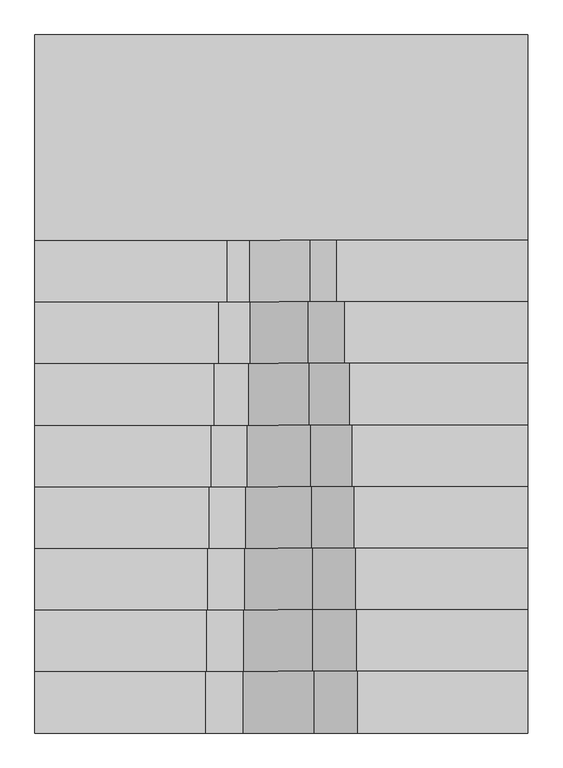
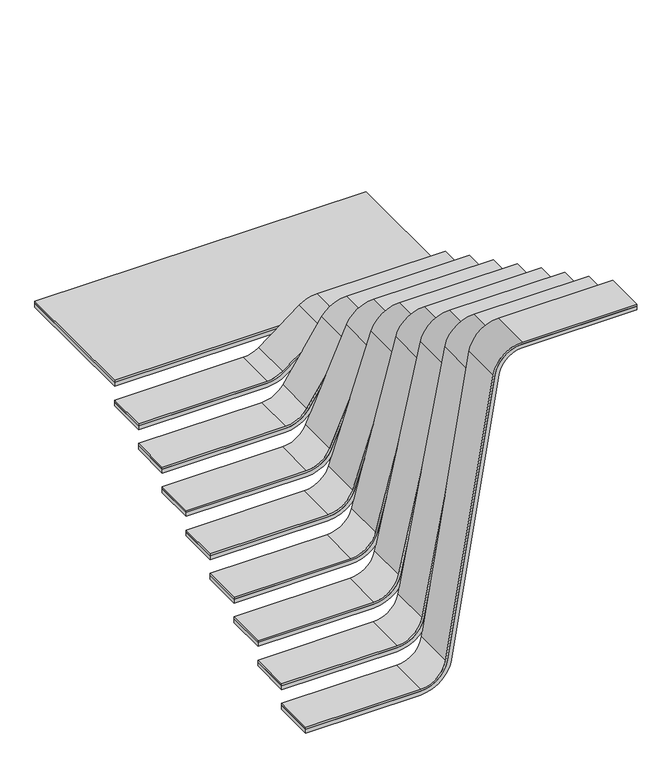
"""IFC4 building model written with IfcOpenShell, lengths in millimetres: proxy geometry, 楼梯 安荣伟 : 楼梯 安荣伟."""

from ifc_helpers import new_model, si_unit, point, frame, frame_2d, origin, place, context, project, spatial, polyline, circle_curve, trimmed, segment, composite_curve, outline, extrude, source, transform, mapped, element, save


def generic_models_38c315a2(model_context):
    return source(origin(), model_context, "Body", "SweptSolid", [
        extrude(outline(composite_curve([segment(polyline([(165.0, -1200.0), (150.0, -1200.0), (150.0, -369.4254177)]), True, "CONTINUOUS"), segment(trimmed(circle_curve(frame_2d((350.0, -369.4254177)), 200.0), [point((150.0, -369.4254177))], [point((317.1202025, -172.1466329))], False, "CARTESIAN"), True, "CONTINUOUS"), segment(polyline([(317.1202025, -172.1466329), (2382.8797975, 172.1466329)]), True, "CONTINUOUS"), segment(trimmed(circle_curve(frame_2d((2350.0, 369.4254177)), 200.0), [point((2382.8797975, 172.1466329))], [point((2550.0, 369.4254177))], True, "CARTESIAN"), True, "CONTINUOUS"), segment(polyline([(2550.0, 369.4254177), (2550.0, 1200.0), (2565.0, 1200.0), (2565.0, 369.4254177)]), True, "CONTINUOUS"), segment(trimmed(circle_curve(frame_2d((2350.0, 369.4254177)), 215.0), [point((2565.0, 369.4254177))], [point((2385.3457823, 157.3507241))], False, "CARTESIAN"), True, "CONTINUOUS"), segment(polyline([(2385.3457823, 157.3507241), (319.5861873, -186.9425418)]), True, "CONTINUOUS"), segment(trimmed(circle_curve(frame_2d((350.0, -369.4254177)), 185.0), [point((319.5861873, -186.9425418))], [point((165.0, -369.4254177))], True, "CARTESIAN"), True, "CONTINUOUS"), segment(polyline([(165.0, -369.4254177), (165.0, -1200.0)]), True, "CONTINUOUS")], self_intersect=False)), frame((0.0, -2400.0, 0.0), z_axis=(0.0, 1.0, 0.0), x_axis=(0.0, 0.0, 1.0)), (0.0, 0.0, 1.0), 300.0),
        extrude(outline(composite_curve([segment(polyline([(150.0, -1200.0), (120.0, -1200.0), (120.0, -369.4254177)]), True, "CONTINUOUS"), segment(trimmed(circle_curve(frame_2d((350.0, -369.4254177)), 230.0), [point((120.0, -369.4254177))], [point((312.1882329, -142.5548152))], False, "CARTESIAN"), True, "CONTINUOUS"), segment(polyline([(312.1882329, -142.5548152), (2377.9478278, 201.7384506)]), True, "CONTINUOUS"), segment(trimmed(circle_curve(frame_2d((2350.0, 369.4254177)), 170.0), [point((2377.9478278, 201.7384506))], [point((2520.0, 369.4254177))], True, "CARTESIAN"), True, "CONTINUOUS"), segment(polyline([(2520.0, 369.4254177), (2520.0, 1200.0), (2550.0, 1200.0), (2550.0, 369.4254177)]), True, "CONTINUOUS"), segment(trimmed(circle_curve(frame_2d((2350.0, 369.4254177)), 200.0), [point((2550.0, 369.4254177))], [point((2382.8797975, 172.1466329))], False, "CARTESIAN"), True, "CONTINUOUS"), segment(polyline([(2382.8797975, 172.1466329), (317.1202025, -172.1466329)]), True, "CONTINUOUS"), segment(trimmed(circle_curve(frame_2d((350.0, -369.4254177)), 200.0), [point((317.1202025, -172.1466329))], [point((150.0, -369.4254177))], True, "CARTESIAN"), True, "CONTINUOUS"), segment(polyline([(150.0, -369.4254177), (150.0, -1200.0)]), True, "CONTINUOUS")], self_intersect=False)), frame((0.0, -2400.0, 0.0), z_axis=(0.0, 1.0, 0.0), x_axis=(0.0, 0.0, 1.0)), (0.0, 0.0, 1.0), 300.0),
        extrude(outline(composite_curve([segment(polyline([(315.0, -1200.0), (300.0, -1200.0), (300.0, -365.5005555)]), True, "CONTINUOUS"), segment(trimmed(circle_curve(frame_2d((500.0, -365.5005555)), 200.0), [point((300.0, -365.5005555))], [point((462.5775784, -169.0328422))], False, "CARTESIAN"), True, "CONTINUOUS"), segment(polyline([(462.5775784, -169.0328422), (2237.4224216, 169.0328422)]), True, "CONTINUOUS"), segment(trimmed(circle_curve(frame_2d((2200.0, 365.5005555)), 200.0), [point((2237.4224216, 169.0328422))], [point((2400.0, 365.5005555))], True, "CARTESIAN"), True, "CONTINUOUS"), segment(polyline([(2400.0, 365.5005555), (2400.0, 1200.0), (2415.0, 1200.0), (2415.0, 365.5005555)]), True, "CONTINUOUS"), segment(trimmed(circle_curve(frame_2d((2200.0, 365.5005555)), 215.0), [point((2415.0, 365.5005555))], [point((2240.2291032, 154.2977637))], False, "CARTESIAN"), True, "CONTINUOUS"), segment(polyline([(2240.2291032, 154.2977637), (465.38426, -183.7679207)]), True, "CONTINUOUS"), segment(trimmed(circle_curve(frame_2d((500.0, -365.5005555)), 185.0), [point((465.38426, -183.7679207))], [point((315.0, -365.5005555))], True, "CARTESIAN"), True, "CONTINUOUS"), segment(polyline([(315.0, -365.5005555), (315.0, -1200.0)]), True, "CONTINUOUS")], self_intersect=False)), frame((0.0, -2100.0, 0.0), z_axis=(0.0, 1.0, 0.0), x_axis=(0.0, 0.0, 1.0)), (0.0, 0.0, 1.0), 300.0),
        extrude(outline(composite_curve([segment(polyline([(300.0, -1200.0), (270.0, -1200.0), (270.0, -365.5005555)]), True, "CONTINUOUS"), segment(trimmed(circle_curve(frame_2d((500.0, -365.5005555)), 230.0), [point((270.0, -365.5005555))], [point((456.9642152, -139.5626852))], False, "CARTESIAN"), True, "CONTINUOUS"), segment(polyline([(456.9642152, -139.5626852), (2231.8090583, 198.5029992)]), True, "CONTINUOUS"), segment(trimmed(circle_curve(frame_2d((2200.0, 365.5005555)), 170.0), [point((2231.8090583, 198.5029992))], [point((2370.0, 365.5005555))], True, "CARTESIAN"), True, "CONTINUOUS"), segment(polyline([(2370.0, 365.5005555), (2370.0, 1200.0), (2400.0, 1200.0), (2400.0, 365.5005555)]), True, "CONTINUOUS"), segment(trimmed(circle_curve(frame_2d((2200.0, 365.5005555)), 200.0), [point((2400.0, 365.5005555))], [point((2237.4224216, 169.0328422))], False, "CARTESIAN"), True, "CONTINUOUS"), segment(polyline([(2237.4224216, 169.0328422), (462.5775784, -169.0328422)]), True, "CONTINUOUS"), segment(trimmed(circle_curve(frame_2d((500.0, -365.5005555)), 200.0), [point((462.5775784, -169.0328422))], [point((300.0, -365.5005555))], True, "CARTESIAN"), True, "CONTINUOUS"), segment(polyline([(300.0, -365.5005555), (300.0, -1200.0)]), True, "CONTINUOUS")], self_intersect=False)), frame((0.0, -2100.0, 0.0), z_axis=(0.0, 1.0, 0.0), x_axis=(0.0, 0.0, 1.0)), (0.0, 0.0, 1.0), 300.0),
        extrude(outline(composite_curve([segment(polyline([(465.0, -1200.0), (450.0, -1200.0), (450.0, -360.4343213)]), True, "CONTINUOUS"), segment(trimmed(circle_curve(frame_2d((650.0, -360.4343213)), 200.0), [point((450.0, -360.4343213))], [point((606.6139084, -165.1969092))], False, "CARTESIAN"), True, "CONTINUOUS"), segment(polyline([(606.6139084, -165.1969092), (2093.3860916, 165.1969092)]), True, "CONTINUOUS"), segment(trimmed(circle_curve(frame_2d((2050.0, 360.4343213)), 200.0), [point((2093.3860916, 165.1969092))], [point((2250.0, 360.4343213))], True, "CARTESIAN"), True, "CONTINUOUS"), segment(polyline([(2250.0, 360.4343213), (2250.0, 1200.0), (2265.0, 1200.0), (2265.0, 360.4343213)]), True, "CONTINUOUS"), segment(trimmed(circle_curve(frame_2d((2050.0, 360.4343213)), 215.0), [point((2265.0, 360.4343213))], [point((2096.6400484, 150.5541033))], False, "CARTESIAN"), True, "CONTINUOUS"), segment(polyline([(2096.6400484, 150.5541033), (609.8678653, -179.8397151)]), True, "CONTINUOUS"), segment(trimmed(circle_curve(frame_2d((650.0, -360.4343213)), 185.0), [point((609.8678653, -179.8397151))], [point((465.0, -360.4343213))], True, "CARTESIAN"), True, "CONTINUOUS"), segment(polyline([(465.0, -360.4343213), (465.0, -1200.0)]), True, "CONTINUOUS")], self_intersect=False)), frame((0.0, -1800.0, 0.0), z_axis=(0.0, 1.0, 0.0), x_axis=(0.0, 0.0, 1.0)), (0.0, 0.0, 1.0), 300.0),
        extrude(outline(composite_curve([segment(polyline([(450.0, -1200.0), (420.0, -1200.0), (420.0, -360.4343213)]), True, "CONTINUOUS"), segment(trimmed(circle_curve(frame_2d((650.0, -360.4343213)), 230.0), [point((420.0, -360.4343213))], [point((600.1059947, -135.9112974))], False, "CARTESIAN"), True, "CONTINUOUS"), segment(polyline([(600.1059947, -135.9112974), (2086.8781778, 194.482521)]), True, "CONTINUOUS"), segment(trimmed(circle_curve(frame_2d((2050.0, 360.4343213)), 170.0), [point((2086.8781778, 194.482521))], [point((2220.0, 360.4343213))], True, "CARTESIAN"), True, "CONTINUOUS"), segment(polyline([(2220.0, 360.4343213), (2220.0, 1200.0), (2250.0, 1200.0), (2250.0, 360.4343213)]), True, "CONTINUOUS"), segment(trimmed(circle_curve(frame_2d((2050.0, 360.4343213)), 200.0), [point((2250.0, 360.4343213))], [point((2093.3860916, 165.1969092))], False, "CARTESIAN"), True, "CONTINUOUS"), segment(polyline([(2093.3860916, 165.1969092), (606.6139084, -165.1969092)]), True, "CONTINUOUS"), segment(trimmed(circle_curve(frame_2d((650.0, -360.4343213)), 200.0), [point((606.6139084, -165.1969092))], [point((450.0, -360.4343213))], True, "CARTESIAN"), True, "CONTINUOUS"), segment(polyline([(450.0, -360.4343213), (450.0, -1200.0)]), True, "CONTINUOUS")], self_intersect=False)), frame((0.0, -1800.0, 0.0), z_axis=(0.0, 1.0, 0.0), x_axis=(0.0, 0.0, 1.0)), (0.0, 0.0, 1.0), 300.0),
        extrude(outline(composite_curve([segment(polyline([(615.0, -1200.0), (600.0, -1200.0), (600.0, -353.6556626)]), True, "CONTINUOUS"), segment(trimmed(circle_curve(frame_2d((800.0, -353.6556626)), 200.0), [point((600.0, -353.6556626))], [point((748.4674699, -160.4086747))], False, "CARTESIAN"), True, "CONTINUOUS"), segment(polyline([(748.4674699, -160.4086747), (1951.5325301, 160.4086747)]), True, "CONTINUOUS"), segment(trimmed(circle_curve(frame_2d((1900.0, 353.6556626)), 200.0), [point((1951.5325301, 160.4086747))], [point((2100.0, 353.6556626))], True, "CARTESIAN"), True, "CONTINUOUS"), segment(polyline([(2100.0, 353.6556626), (2100.0, 1200.0), (2115.0, 1200.0), (2115.0, 353.6556626)]), True, "CONTINUOUS"), segment(trimmed(circle_curve(frame_2d((1900.0, 353.6556626)), 215.0), [point((2115.0, 353.6556626))], [point((1955.3974699, 145.9151506))], False, "CARTESIAN"), True, "CONTINUOUS"), segment(polyline([(1955.3974699, 145.9151506), (752.3324096, -174.9021988)]), True, "CONTINUOUS"), segment(trimmed(circle_curve(frame_2d((800.0, -353.6556626)), 185.0), [point((752.3324096, -174.9021988))], [point((615.0, -353.6556626))], True, "CARTESIAN"), True, "CONTINUOUS"), segment(polyline([(615.0, -353.6556626), (615.0, -1200.0)]), True, "CONTINUOUS")], self_intersect=False)), frame((0.0, -1500.0, 0.0), z_axis=(0.0, 1.0, 0.0), x_axis=(0.0, 0.0, 1.0)), (0.0, 0.0, 1.0), 300.0),
        extrude(outline(composite_curve([segment(polyline([(600.0, -1200.0), (570.0, -1200.0), (570.0, -353.6556626)]), True, "CONTINUOUS"), segment(trimmed(circle_curve(frame_2d((800.0, -353.6556626)), 230.0), [point((570.0, -353.6556626))], [point((740.7375904, -131.4216265))], False, "CARTESIAN"), True, "CONTINUOUS"), segment(polyline([(740.7375904, -131.4216265), (1943.8026506, 189.3957229)]), True, "CONTINUOUS"), segment(trimmed(circle_curve(frame_2d((1900.0, 353.6556626)), 170.0), [point((1943.8026506, 189.3957229))], [point((2070.0, 353.6556626))], True, "CARTESIAN"), True, "CONTINUOUS"), segment(polyline([(2070.0, 353.6556626), (2070.0, 1200.0), (2100.0, 1200.0), (2100.0, 353.6556626)]), True, "CONTINUOUS"), segment(trimmed(circle_curve(frame_2d((1900.0, 353.6556626)), 200.0), [point((2100.0, 353.6556626))], [point((1951.5325301, 160.4086747))], False, "CARTESIAN"), True, "CONTINUOUS"), segment(polyline([(1951.5325301, 160.4086747), (748.4674699, -160.4086747)]), True, "CONTINUOUS"), segment(trimmed(circle_curve(frame_2d((800.0, -353.6556626)), 200.0), [point((748.4674699, -160.4086747))], [point((600.0, -353.6556626))], True, "CARTESIAN"), True, "CONTINUOUS"), segment(polyline([(600.0, -353.6556626), (600.0, -1200.0)]), True, "CONTINUOUS")], self_intersect=False)), frame((0.0, -1500.0, 0.0), z_axis=(0.0, 1.0, 0.0), x_axis=(0.0, 0.0, 1.0)), (0.0, 0.0, 1.0), 300.0),
        extrude(outline(composite_curve([segment(polyline([(765.0, -1200.0), (750.0, -1200.0), (750.0, -344.151844)]), True, "CONTINUOUS"), segment(trimmed(circle_curve(frame_2d((950.0, -344.151844)), 200.0), [point((750.0, -344.151844))], [point((886.7544468, -154.4151844))], False, "CARTESIAN"), True, "CONTINUOUS"), segment(polyline([(886.7544468, -154.4151844), (1813.2455532, 154.4151844)]), True, "CONTINUOUS"), segment(trimmed(circle_curve(frame_2d((1750.0, 344.151844)), 200.0), [point((1813.2455532, 154.4151844))], [point((1950.0, 344.151844))], True, "CARTESIAN"), True, "CONTINUOUS"), segment(polyline([(1950.0, 344.151844), (1950.0, 1200.0), (1965.0, 1200.0), (1965.0, 344.151844)]), True, "CONTINUOUS"), segment(trimmed(circle_curve(frame_2d((1750.0, 344.151844)), 215.0), [point((1965.0, 344.151844))], [point((1817.9889697, 140.1849349))], False, "CARTESIAN"), True, "CONTINUOUS"), segment(polyline([(1817.9889697, 140.1849349), (891.4978633, -168.6454339)]), True, "CONTINUOUS"), segment(trimmed(circle_curve(frame_2d((950.0, -344.151844)), 185.0), [point((891.4978633, -168.6454339))], [point((765.0, -344.151844))], True, "CARTESIAN"), True, "CONTINUOUS"), segment(polyline([(765.0, -344.151844), (765.0, -1200.0)]), True, "CONTINUOUS")], self_intersect=False)), frame((0.0, -1200.0, 0.0), z_axis=(0.0, 1.0, 0.0), x_axis=(0.0, 0.0, 1.0)), (0.0, 0.0, 1.0), 300.0),
        extrude(outline(composite_curve([segment(polyline([(750.0, -1200.0), (720.0, -1200.0), (720.0, -344.151844)]), True, "CONTINUOUS"), segment(trimmed(circle_curve(frame_2d((950.0, -344.151844)), 230.0), [point((720.0, -344.151844))], [point((877.2676138, -125.9546855))], False, "CARTESIAN"), True, "CONTINUOUS"), segment(polyline([(877.2676138, -125.9546855), (1803.7587202, 182.8756833)]), True, "CONTINUOUS"), segment(trimmed(circle_curve(frame_2d((1750.0, 344.151844)), 170.0), [point((1803.7587202, 182.8756833))], [point((1920.0, 344.151844))], True, "CARTESIAN"), True, "CONTINUOUS"), segment(polyline([(1920.0, 344.151844), (1920.0, 1200.0), (1950.0, 1200.0), (1950.0, 344.151844)]), True, "CONTINUOUS"), segment(trimmed(circle_curve(frame_2d((1750.0, 344.151844)), 200.0), [point((1950.0, 344.151844))], [point((1813.2455532, 154.4151844))], False, "CARTESIAN"), True, "CONTINUOUS"), segment(polyline([(1813.2455532, 154.4151844), (886.7544468, -154.4151844)]), True, "CONTINUOUS"), segment(trimmed(circle_curve(frame_2d((950.0, -344.151844)), 200.0), [point((886.7544468, -154.4151844))], [point((750.0, -344.151844))], True, "CARTESIAN"), True, "CONTINUOUS"), segment(polyline([(750.0, -344.151844), (750.0, -1200.0)]), True, "CONTINUOUS")], self_intersect=False)), frame((0.0, -1200.0, 0.0), z_axis=(0.0, 1.0, 0.0), x_axis=(0.0, 0.0, 1.0)), (0.0, 0.0, 1.0), 300.0),
        extrude(outline(composite_curve([segment(polyline([(915.0, -1200.0), (900.0, -1200.0), (900.0, -329.9746178)]), True, "CONTINUOUS"), segment(trimmed(circle_curve(frame_2d((1100.0, -329.9746178)), 200.0), [point((900.0, -329.9746178))], [point((1018.7723068, -147.2123081))], False, "CARTESIAN"), True, "CONTINUOUS"), segment(polyline([(1018.7723068, -147.2123081), (1681.2276932, 147.2123081)]), True, "CONTINUOUS"), segment(trimmed(circle_curve(frame_2d((1600.0, 329.9746178)), 200.0), [point((1681.2276932, 147.2123081))], [point((1800.0, 329.9746178))], True, "CARTESIAN"), True, "CONTINUOUS"), segment(polyline([(1800.0, 329.9746178), (1800.0, 1200.0), (1815.0, 1200.0), (1815.0, 329.9746178)]), True, "CONTINUOUS"), segment(trimmed(circle_curve(frame_2d((1600.0, 329.9746178)), 215.0), [point((1815.0, 329.9746178))], [point((1687.3197702, 133.5051349))], False, "CARTESIAN"), True, "CONTINUOUS"), segment(polyline([(1687.3197702, 133.5051349), (1024.8643838, -160.9194813)]), True, "CONTINUOUS"), segment(trimmed(circle_curve(frame_2d((1100.0, -329.9746178)), 185.0), [point((1024.8643838, -160.9194813))], [point((915.0, -329.9746178))], True, "CARTESIAN"), True, "CONTINUOUS"), segment(polyline([(915.0, -329.9746178), (915.0, -1200.0)]), True, "CONTINUOUS")], self_intersect=False)), frame((0.0, -900.0, 0.0), z_axis=(0.0, 1.0, 0.0), x_axis=(0.0, 0.0, 1.0)), (0.0, 0.0, 1.0), 300.0),
        extrude(outline(composite_curve([segment(polyline([(900.0, -1200.0), (870.0, -1200.0), (870.0, -329.9746178)]), True, "CONTINUOUS"), segment(trimmed(circle_curve(frame_2d((1100.0, -329.9746178)), 230.0), [point((870.0, -329.9746178))], [point((1006.5881528, -119.7979616))], False, "CARTESIAN"), True, "CONTINUOUS"), segment(polyline([(1006.5881528, -119.7979616), (1669.0435392, 174.6266546)]), True, "CONTINUOUS"), segment(trimmed(circle_curve(frame_2d((1600.0, 329.9746178)), 170.0), [point((1669.0435392, 174.6266546))], [point((1770.0, 329.9746178))], True, "CARTESIAN"), True, "CONTINUOUS"), segment(polyline([(1770.0, 329.9746178), (1770.0, 1200.0), (1800.0, 1200.0), (1800.0, 329.9746178)]), True, "CONTINUOUS"), segment(trimmed(circle_curve(frame_2d((1600.0, 329.9746178)), 200.0), [point((1800.0, 329.9746178))], [point((1681.2276932, 147.2123081))], False, "CARTESIAN"), True, "CONTINUOUS"), segment(polyline([(1681.2276932, 147.2123081), (1018.7723068, -147.2123081)]), True, "CONTINUOUS"), segment(trimmed(circle_curve(frame_2d((1100.0, -329.9746178)), 200.0), [point((1018.7723068, -147.2123081))], [point((900.0, -329.9746178))], True, "CARTESIAN"), True, "CONTINUOUS"), segment(polyline([(900.0, -329.9746178), (900.0, -1200.0)]), True, "CONTINUOUS")], self_intersect=False)), frame((0.0, -900.0, 0.0), z_axis=(0.0, 1.0, 0.0), x_axis=(0.0, 0.0, 1.0)), (0.0, 0.0, 1.0), 300.0),
        extrude(outline(composite_curve([segment(polyline([(1065.0, -1200.0), (1050.0, -1200.0), (1050.0, -307.0367517)]), True, "CONTINUOUS"), segment(trimmed(circle_curve(frame_2d((1250.0, -307.0367517)), 200.0), [point((1050.0, -307.0367517))], [point((1139.0599608, -140.6266928))], False, "CARTESIAN"), True, "CONTINUOUS"), segment(polyline([(1139.0599608, -140.6266928), (1560.9400392, 140.6266928)]), True, "CONTINUOUS"), segment(trimmed(circle_curve(frame_2d((1450.0, 307.0367517)), 200.0), [point((1560.9400392, 140.6266928))], [point((1650.0, 307.0367517))], True, "CARTESIAN"), True, "CONTINUOUS"), segment(polyline([(1650.0, 307.0367517), (1650.0, 1200.0), (1665.0, 1200.0), (1665.0, 307.0367517)]), True, "CONTINUOUS"), segment(trimmed(circle_curve(frame_2d((1450.0, 307.0367517)), 215.0), [point((1665.0, 307.0367517))], [point((1569.2605422, 128.1459384))], False, "CARTESIAN"), True, "CONTINUOUS"), segment(polyline([(1569.2605422, 128.1459384), (1147.3804637, -153.1074472)]), True, "CONTINUOUS"), segment(trimmed(circle_curve(frame_2d((1250.0, -307.0367517)), 185.0), [point((1147.3804637, -153.1074472))], [point((1065.0, -307.0367517))], True, "CARTESIAN"), True, "CONTINUOUS"), segment(polyline([(1065.0, -307.0367517), (1065.0, -1200.0)]), True, "CONTINUOUS")], self_intersect=False)), frame((0.0, -600.0, 0.0), z_axis=(0.0, 1.0, 0.0), x_axis=(0.0, 0.0, 1.0)), (0.0, 0.0, 1.0), 300.0),
        extrude(outline(composite_curve([segment(polyline([(1050.0, -1200.0), (1020.0, -1200.0), (1020.0, -307.0367517)]), True, "CONTINUOUS"), segment(trimmed(circle_curve(frame_2d((1250.0, -307.0367517)), 230.0), [point((1020.0, -307.0367517))], [point((1122.4189549, -115.665184))], False, "CARTESIAN"), True, "CONTINUOUS"), segment(polyline([(1122.4189549, -115.665184), (1544.2990334, 165.5882017)]), True, "CONTINUOUS"), segment(trimmed(circle_curve(frame_2d((1450.0, 307.0367517)), 170.0), [point((1544.2990334, 165.5882017))], [point((1620.0, 307.0367517))], True, "CARTESIAN"), True, "CONTINUOUS"), segment(polyline([(1620.0, 307.0367517), (1620.0, 1200.0), (1650.0, 1200.0), (1650.0, 307.0367517)]), True, "CONTINUOUS"), segment(trimmed(circle_curve(frame_2d((1450.0, 307.0367517)), 200.0), [point((1650.0, 307.0367517))], [point((1560.9400392, 140.6266928))], False, "CARTESIAN"), True, "CONTINUOUS"), segment(polyline([(1560.9400392, 140.6266928), (1139.0599608, -140.6266928)]), True, "CONTINUOUS"), segment(trimmed(circle_curve(frame_2d((1250.0, -307.0367517)), 200.0), [point((1139.0599608, -140.6266928))], [point((1050.0, -307.0367517))], True, "CARTESIAN"), True, "CONTINUOUS"), segment(polyline([(1050.0, -307.0367517), (1050.0, -1200.0)]), True, "CONTINUOUS")], self_intersect=False)), frame((0.0, -600.0, 0.0), z_axis=(0.0, 1.0, 0.0), x_axis=(0.0, 0.0, 1.0)), (0.0, 0.0, 1.0), 300.0),
        extrude(outline(composite_curve([segment(polyline([(1215.0, -1200.0), (1200.0, -1200.0), (1200.0, -266.6666667)]), True, "CONTINUOUS"), segment(trimmed(circle_curve(frame_2d((1400.0, -266.6666667)), 200.0), [point((1200.0, -266.6666667))], [point((1240.0, -146.6666667))], False, "CARTESIAN"), True, "CONTINUOUS"), segment(polyline([(1240.0, -146.6666667), (1460.0, 146.6666667)]), True, "CONTINUOUS"), segment(trimmed(circle_curve(frame_2d((1300.0, 266.6666667)), 200.0), [point((1460.0, 146.6666667))], [point((1500.0, 266.6666667))], True, "CARTESIAN"), True, "CONTINUOUS"), segment(polyline([(1500.0, 266.6666667), (1500.0, 1200.0), (1515.0, 1200.0), (1515.0, 266.6666667)]), True, "CONTINUOUS"), segment(trimmed(circle_curve(frame_2d((1300.0, 266.6666667)), 215.0), [point((1515.0, 266.6666667))], [point((1472.0, 137.6666667))], False, "CARTESIAN"), True, "CONTINUOUS"), segment(polyline([(1472.0, 137.6666667), (1252.0, -155.6666667)]), True, "CONTINUOUS"), segment(trimmed(circle_curve(frame_2d((1400.0, -266.6666667)), 185.0), [point((1252.0, -155.6666667))], [point((1215.0, -266.6666667))], True, "CARTESIAN"), True, "CONTINUOUS"), segment(polyline([(1215.0, -266.6666667), (1215.0, -1200.0)]), True, "CONTINUOUS")], self_intersect=False)), frame((0.0, -300.0, 0.0), z_axis=(0.0, 1.0, 0.0), x_axis=(0.0, 0.0, 1.0)), (0.0, 0.0, 1.0), 300.0),
        extrude(outline(composite_curve([segment(polyline([(1200.0, -1200.0), (1170.0, -1200.0), (1170.0, -266.6666667)]), True, "CONTINUOUS"), segment(trimmed(circle_curve(frame_2d((1400.0, -266.6666667)), 230.0), [point((1170.0, -266.6666667))], [point((1216.0, -128.6666667))], False, "CARTESIAN"), True, "CONTINUOUS"), segment(polyline([(1216.0, -128.6666667), (1436.0, 164.6666667)]), True, "CONTINUOUS"), segment(trimmed(circle_curve(frame_2d((1300.0, 266.6666667)), 170.0), [point((1436.0, 164.6666667))], [point((1470.0, 266.6666667))], True, "CARTESIAN"), True, "CONTINUOUS"), segment(polyline([(1470.0, 266.6666667), (1470.0, 1200.0), (1500.0, 1200.0), (1500.0, 266.6666667)]), True, "CONTINUOUS"), segment(trimmed(circle_curve(frame_2d((1300.0, 266.6666667)), 200.0), [point((1500.0, 266.6666667))], [point((1460.0, 146.6666667))], False, "CARTESIAN"), True, "CONTINUOUS"), segment(polyline([(1460.0, 146.6666667), (1240.0, -146.6666667)]), True, "CONTINUOUS"), segment(trimmed(circle_curve(frame_2d((1400.0, -266.6666667)), 200.0), [point((1240.0, -146.6666667))], [point((1200.0, -266.6666667))], True, "CARTESIAN"), True, "CONTINUOUS"), segment(polyline([(1200.0, -266.6666667), (1200.0, -1200.0)]), True, "CONTINUOUS")], self_intersect=False)), frame((0.0, -300.0, 0.0), z_axis=(0.0, 1.0, 0.0), x_axis=(0.0, 0.0, 1.0)), (0.0, 0.0, 1.0), 300.0),
        extrude(outline(polyline([(1200.0, 0.0), (-1200.0, 0.0), (-1200.0, 1000.0), (1200.0, 1000.0), (1200.0, 0.0)])), frame((0.0, 0.0, 1350.0), z_axis=(0.0, 0.0, 1.0), x_axis=(1.0, 0.0, 0.0)), (0.0, 0.0, 1.0), 15.0),
        extrude(outline(polyline([(1200.0, 0.0), (-1200.0, 0.0), (-1200.0, 1000.0), (1200.0, 1000.0), (1200.0, 0.0)])), frame((0.0, 0.0, 1320.0), z_axis=(0.0, 0.0, 1.0), x_axis=(1.0, 0.0, 0.0)), (0.0, 0.0, 1.0), 30.0),
    ])


if __name__ == "__main__":
    model = new_model("IFC4")
    model_context = context("Model", 3, world=origin())
    ifc_project = project(units=[si_unit("LENGTHUNIT", "METRE", prefix="MILLI")], contexts=[model_context])
    site = spatial("IfcSite", under=ifc_project)
    building = spatial("IfcBuilding", under=site)
    placement = place(None, origin())
    generic_models_shape = generic_models_38c315a2(model_context)
    element("IfcBuildingElementProxy", 1, Name="楼梯 安荣伟 : 楼梯 安荣伟", ObjectType="楼梯 安荣伟 : 楼梯 安荣伟", at=placement, inside=building, context=model_context, shape_type="MappedRepresentation", body=[
        mapped(generic_models_shape, transform((0.0, 0.0, 0.0), x_axis=(1.0, 0.0, 0.0), y_axis=(0.0, 1.0, 0.0), z_axis=(0.0, 0.0, 1.0))),
    ])
    save(model, "model.ifc")
